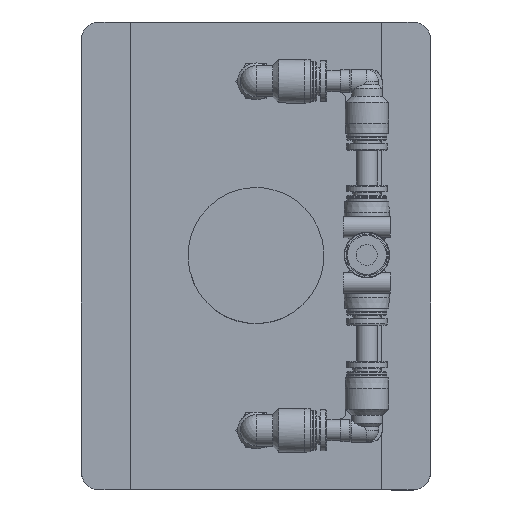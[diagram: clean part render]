
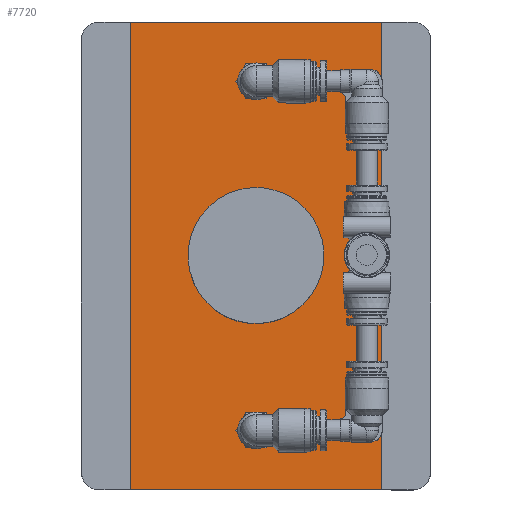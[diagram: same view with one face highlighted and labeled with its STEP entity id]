
A CAD part, top view. The second image highlights one B-rep face of the part: STEP entity #7720.
In plain terms, the highlighted planar face has unit normal (0, 0, 1).
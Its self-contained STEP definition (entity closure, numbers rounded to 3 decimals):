
#153=PLANE($,#8430);
#452=LINE($,#12392,#768);
#456=LINE($,#12405,#772);
#457=LINE($,#12406,#773);
#458=LINE($,#12407,#774);
#768=VECTOR($,#9978,134.);
#772=VECTOR($,#9988,134.);
#773=VECTOR($,#9989,72.);
#774=VECTOR($,#9990,72.);
#1217=FACE_BOUND($,#2261,.T.);
#1218=FACE_BOUND($,#2262,.T.);
#1219=FACE_BOUND($,#2263,.T.);
#1220=FACE_BOUND($,#2264,.T.);
#2261=EDGE_LOOP($,(#5606));
#2262=EDGE_LOOP($,(#5607));
#2263=EDGE_LOOP($,(#5608));
#2264=EDGE_LOOP($,(#5609,#5610,#5611,#5612));
#2899=CIRCLE($,#8101,3.9);
#3053=CIRCLE($,#8431,3.9);
#3054=CIRCLE($,#8432,18.);
#3374=VERTEX_POINT($,#11550);
#3629=VERTEX_POINT($,#12390);
#3630=VERTEX_POINT($,#12391);
#3633=VERTEX_POINT($,#12399);
#3634=VERTEX_POINT($,#12401);
#3635=VERTEX_POINT($,#12403);
#3636=VERTEX_POINT($,#12404);
#4071=EDGE_CURVE($,#3374,#3374,#2899,.T.);
#4419=EDGE_CURVE($,#3629,#3630,#452,.T.);
#4423=EDGE_CURVE($,#3633,#3633,#3053,.T.);
#4424=EDGE_CURVE($,#3634,#3634,#3054,.T.);
#4425=EDGE_CURVE($,#3635,#3636,#456,.T.);
#4426=EDGE_CURVE($,#3636,#3629,#457,.T.);
#4427=EDGE_CURVE($,#3630,#3635,#458,.T.);
#5606=ORIENTED_EDGE($,*,*,#4423,.T.);
#5607=ORIENTED_EDGE($,*,*,#4071,.T.);
#5608=ORIENTED_EDGE($,*,*,#4424,.T.);
#5609=ORIENTED_EDGE($,*,*,#4425,.T.);
#5610=ORIENTED_EDGE($,*,*,#4426,.T.);
#5611=ORIENTED_EDGE($,*,*,#4419,.T.);
#5612=ORIENTED_EDGE($,*,*,#4427,.T.);
#7720=ADVANCED_FACE($,(#1217,#1218,#1219,#1220),#153,.F.);
#8101=AXIS2_PLACEMENT_3D($,#11551,#9148,#9149);
#8430=AXIS2_PLACEMENT_3D($,#12398,#9982,#9983);
#8431=AXIS2_PLACEMENT_3D($,#12400,#9984,#9985);
#8432=AXIS2_PLACEMENT_3D($,#12402,#9986,#9987);
#9148=DIRECTION('center_axis',(0.,0.,
-1.));
#9149=DIRECTION('ref_axis',(1.,0.,0.));
#9978=DIRECTION($,(0.,1.,0.));
#9982=DIRECTION('center_axis',(0.,0.,
-1.));
#9983=DIRECTION('ref_axis',(-1.,0.,0.));
#9984=DIRECTION('center_axis',(0.,0.,
-1.));
#9985=DIRECTION('ref_axis',(1.,0.,0.));
#9986=DIRECTION('center_axis',(0.,0.,
-1.));
#9987=DIRECTION('ref_axis',(-0.065,0.998,0.));
#9988=DIRECTION($,(0.,-1.,0.));
#9989=DIRECTION($,(1.,0.,0.));
#9990=DIRECTION($,(-1.,0.,0.));
#11550=CARTESIAN_POINT('',(-3.9,50.,25.29));
#11551=CARTESIAN_POINT('Origin',(0.,50.,25.29));
#12390=CARTESIAN_POINT('',(36.,-67.,25.29));
#12391=CARTESIAN_POINT('',(36.,67.,25.29));
#12392=CARTESIAN_POINT($,(36.,-67.,25.29));
#12398=CARTESIAN_POINT('Origin',(0.,-27.,
25.29));
#12399=CARTESIAN_POINT('',(-3.9,-50.,25.29));
#12400=CARTESIAN_POINT('Origin',(0.,-50.,
25.29));
#12401=CARTESIAN_POINT('',(1.177,-17.962,25.29));
#12402=CARTESIAN_POINT('Origin',(0.,0.,
25.29));
#12403=CARTESIAN_POINT('',(-36.,67.,25.29));
#12404=CARTESIAN_POINT('',(-36.,-67.,25.29));
#12405=CARTESIAN_POINT($,(-36.,67.,25.29));
#12406=CARTESIAN_POINT($,(-36.,-67.,25.29));
#12407=CARTESIAN_POINT($,(36.,67.,25.29));
